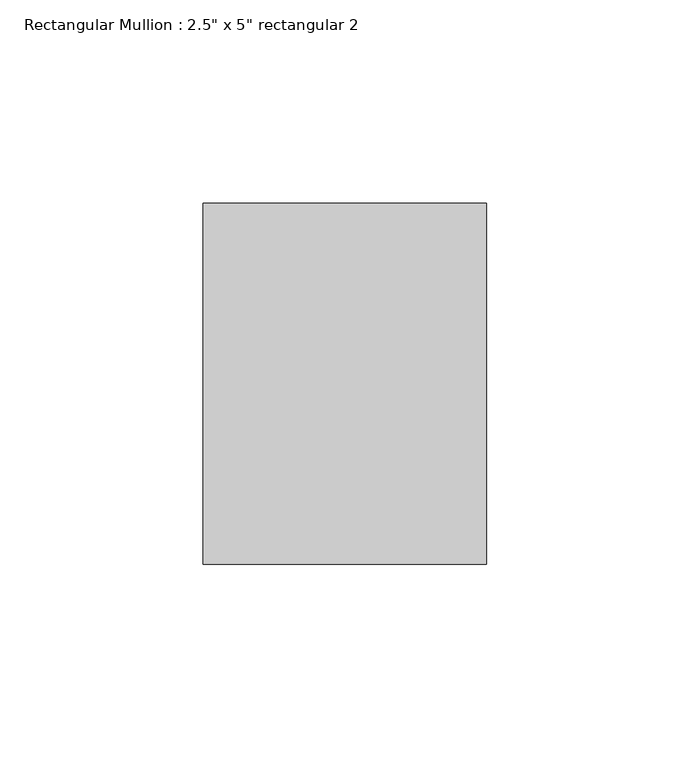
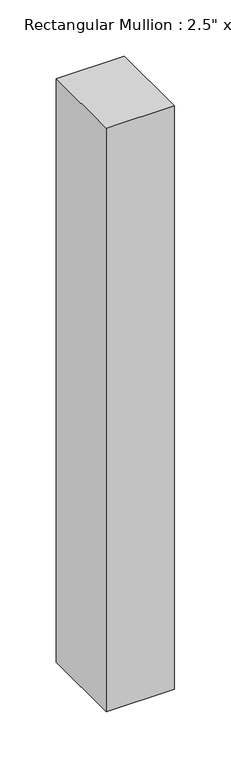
"""IFC4 building model written with IfcOpenShell, lengths in millimetres: member geometry."""

from ifc_helpers import new_model, si_unit, frame, origin, place, context, project, spatial, polyline, outline, extrude, source, transform, mapped, element, save


def member_77cbc450(model_context):
    return source(origin(), model_context, "Body", "SweptSolid", [
        extrude(outline(polyline([(38.1, 44.45), (38.1, -44.45), (-31.75, -44.45), (-31.75, 44.45), (38.1, 44.45)])), frame((0.0, 0.0, -632.7821279), z_axis=(0.0, 0.0, 1.0), x_axis=(1.0, 0.0, 0.0)), (0.0, 0.0, 1.0), 632.7821279),
    ])


if __name__ == "__main__":
    model = new_model("IFC4")
    model_context = context("Model", 3, world=origin())
    ifc_project = project(units=[si_unit("LENGTHUNIT", "METRE", prefix="MILLI")], contexts=[model_context])
    site = spatial("IfcSite", under=ifc_project)
    building = spatial("IfcBuilding", under=site)
    placement = place(None, origin())
    member_shape = member_77cbc450(model_context)
    element("IfcMember", 1, ObjectType="Rectangular Mullion : 2.5\" x 5\" rectangular 2", at=placement, inside=building, context=model_context, shape_type="MappedRepresentation", body=[
        mapped(member_shape, transform((0.0, 0.0, 0.0), x_axis=(1.0, 0.0, 0.0), y_axis=(0.0, 1.0, 0.0), z_axis=(0.0, 0.0, 1.0))),
    ])
    save(model, "model.ifc")
